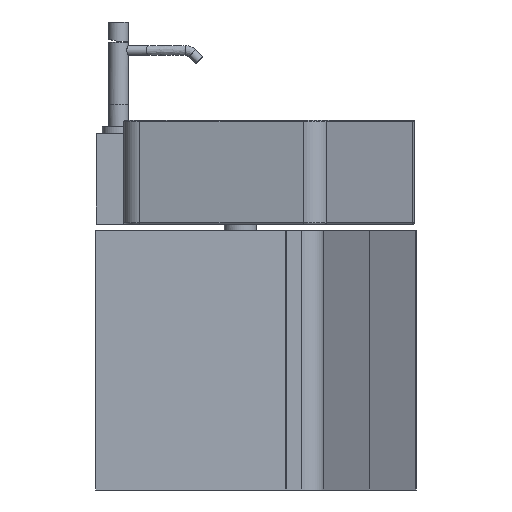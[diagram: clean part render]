
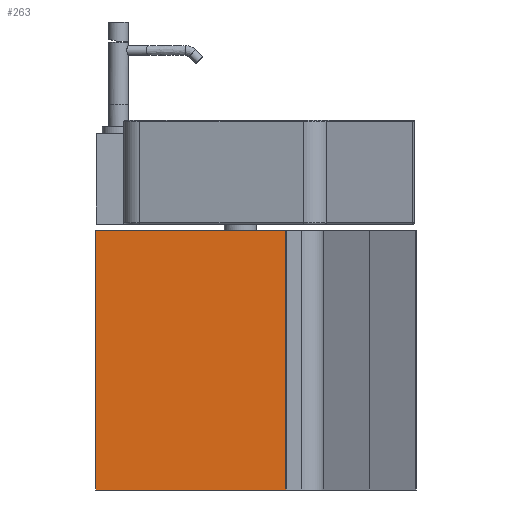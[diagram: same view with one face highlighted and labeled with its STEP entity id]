
A CAD part, left-side view. The second image highlights one B-rep face of the part: STEP entity #263.
In plain terms, the highlighted planar face has unit normal (-1, 0, 0).
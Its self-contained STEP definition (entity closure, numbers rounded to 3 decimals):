
#263=ADVANCED_FACE('',(#497),#3376,.T.);
#497=FACE_OUTER_BOUND('',#756,.T.);
#756=EDGE_LOOP('',(#1574,#1575,#1576,#1577));
#1574=ORIENTED_EDGE('',*,*,#2216,.T.);
#1575=ORIENTED_EDGE('',*,*,#2217,.T.);
#1576=ORIENTED_EDGE('',*,*,#2218,.F.);
#1577=ORIENTED_EDGE('',*,*,#2214,.F.);
#2214=EDGE_CURVE('',#3092,#3093,#2826,.T.);
#2216=EDGE_CURVE('',#3092,#3094,#2828,.T.);
#2217=EDGE_CURVE('',#3094,#3095,#2829,.T.);
#2218=EDGE_CURVE('',#3093,#3095,#2830,.T.);
#2826=B_SPLINE_CURVE_WITH_KNOTS('',1,(#6613,#6614),.UNSPECIFIED.,.F.,.F.,
(2,2),(0.,400.),.UNSPECIFIED.);
#2828=B_SPLINE_CURVE_WITH_KNOTS('',1,(#6617,#6618),.UNSPECIFIED.,.F.,.F.,
(2,2),(-2332.611,-2013.25),.UNSPECIFIED.);
#2829=B_SPLINE_CURVE_WITH_KNOTS('',1,(#6619,#6620),.UNSPECIFIED.,.F.,.F.,
(2,2),(0.,400.),.UNSPECIFIED.);
#2830=B_SPLINE_CURVE_WITH_KNOTS('',1,(#6621,#6622),.UNSPECIFIED.,.F.,.F.,
(2,2),(-2332.611,-2013.25),.UNSPECIFIED.);
#3092=VERTEX_POINT('',#6599);
#3093=VERTEX_POINT('',#6600);
#3094=VERTEX_POINT('',#6601);
#3095=VERTEX_POINT('',#6602);
#3376=PLANE('',#3629);
#3629=AXIS2_PLACEMENT_3D('',#6591,#3822,$);
#3822=DIRECTION('',(-1.,0.,0.));
#6591=CARTESIAN_POINT('',(-1181.078,-11735.505,-0.996));
#6599=CARTESIAN_POINT('',(-1181.078,-11735.505,-0.996));
#6600=CARTESIAN_POINT('',(-1181.078,-11735.505,399.004));
#6601=CARTESIAN_POINT('',(-1181.078,-12028.439,-0.996));
#6602=CARTESIAN_POINT('',(-1181.078,-12028.439,399.004));
#6613=CARTESIAN_POINT('',(-1181.078,-11735.505,-0.996));
#6614=CARTESIAN_POINT('',(-1181.078,-11735.505,399.004));
#6617=CARTESIAN_POINT('',(-1181.078,-11735.505,-0.996));
#6618=CARTESIAN_POINT('',(-1181.078,-12028.439,-0.996));
#6619=CARTESIAN_POINT('',(-1181.078,-12028.439,-0.996));
#6620=CARTESIAN_POINT('',(-1181.078,-12028.439,399.004));
#6621=CARTESIAN_POINT('',(-1181.078,-11735.505,399.004));
#6622=CARTESIAN_POINT('',(-1181.078,-12028.439,399.004));
